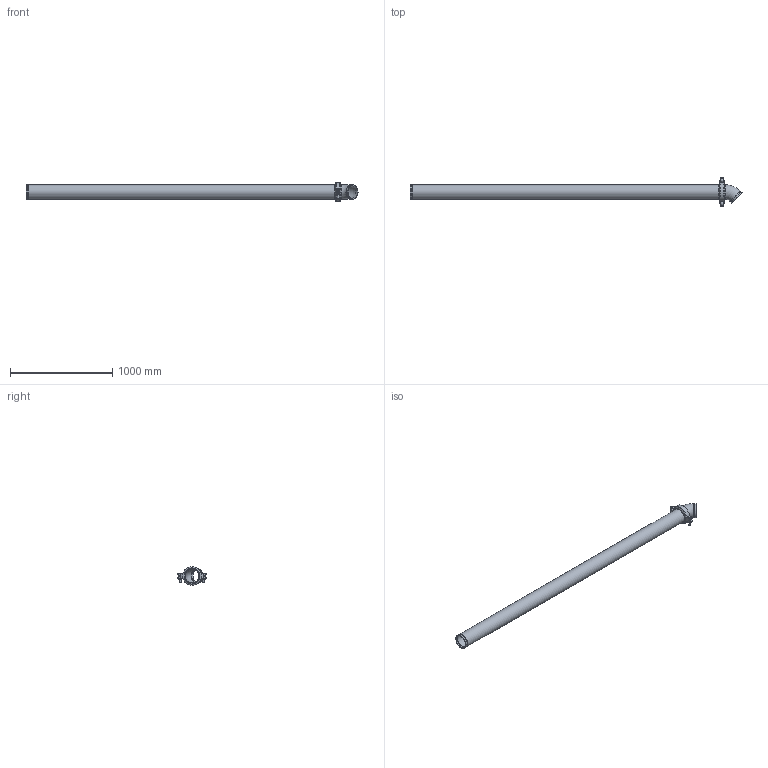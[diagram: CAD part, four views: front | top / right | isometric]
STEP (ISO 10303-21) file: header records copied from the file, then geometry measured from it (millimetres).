
FILE_DESCRIPTION(/* description */ ('VIC LONG RUN FITTING No R24 (OGS)','CAx-IF Rec.Pracs.---Representation and Presentation of Product Manufacturing Information (PMI)---4.0---2014-10-13'),/* implementation_level */ '2;1');
FILE_NAME(/* name */ 'C:\Users\Vjadhav\AppData\Roaming\Autodesk\ApplicationPlugins\Back Up\Victaulic_IPS_Long Run Fittings_No R24 (OGS)\Victaulic_IPS_Long Run Fittings_No R24 (OGS)_5 (125).stp',/* time_stamp */ '2020-10-13T19:13:50+06:00',/* author */ ('Vjadhav'),/* organization */ ('Victaulic'),/* preprocessor_version */ 'ST-DEVELOPER v17.2',/* originating_system */ 'Autodesk Inventor 2019',/* authorisation */ '');
FILE_SCHEMA (('AP242_MANAGED_MODEL_BASED_3D_ENGINEERING_MIM_LF { 1 0 10303 442 1 1 4 }'));
Length unit declared in the file: inch
Products named in the file (4): R24-05.0; 011-05.0; 177N-05.0; Pipe_R13-05.0
Assembly tree (3 placements, depth 2):
  R24-05.0
    011-05.0
    177N-05.0
    Pipe_R13-05.0
Bounding box: 3248.53 x 284.03 x 185.67 mm (x, y, z)
Volume: 9684031 mm3; surface area: 2845520.8 mm2
Topology: 3 solids, 3 shells, 117 faces, 309 edges, 210 vertices
Faces by surface type: plane 68, cylinder 37, torus 6, cone 4, sphere 2
Full cylindrical faces by diameter (mm): 17.78 x2, 30.48 x2, 128.194 x3, 128.6 x1, 137.033 x4, 141.3 x7
Entity records: 4060 total; most frequent: CARTESIAN_POINT 719, DIRECTION 677, ORIENTED_EDGE 626, EDGE_CURVE 313, AXIS2_PLACEMENT_3D 256, VERTEX_POINT 210, LINE 165, VECTOR 165
